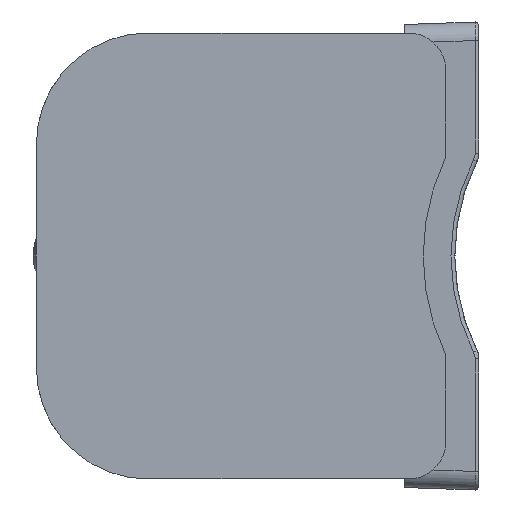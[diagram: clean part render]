
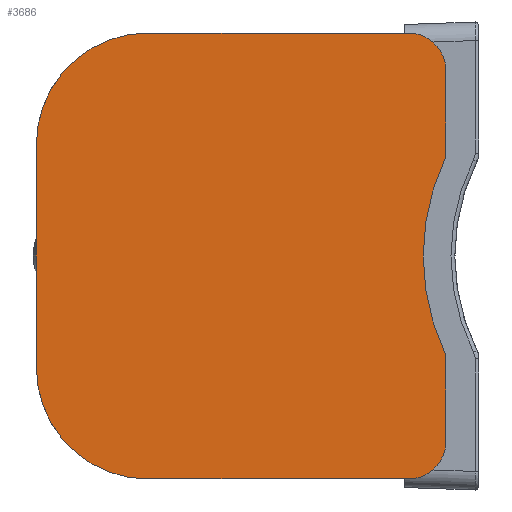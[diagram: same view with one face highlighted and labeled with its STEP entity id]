
A CAD part, left-side view. The second image highlights one B-rep face of the part: STEP entity #3686.
In plain terms, the highlighted planar face has unit normal (-1, 0, 0).
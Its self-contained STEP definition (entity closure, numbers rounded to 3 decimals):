
#191=PLANE('',#4046);
#363=CIRCLE('',#4045,1.01);
#364=CIRCLE('',#4047,3.);
#365=CIRCLE('',#4048,1.01);
#366=CIRCLE('',#4049,0.22);
#367=CIRCLE('',#4050,6.1);
#368=CIRCLE('',#4051,0.22);
#369=CIRCLE('',#4052,3.);
#849=ORIENTED_EDGE('',*,*,#1762,.F.);
#850=ORIENTED_EDGE('',*,*,#1763,.F.);
#851=ORIENTED_EDGE('',*,*,#1764,.F.);
#852=ORIENTED_EDGE('',*,*,#1765,.F.);
#853=ORIENTED_EDGE('',*,*,#1766,.F.);
#854=ORIENTED_EDGE('',*,*,#1767,.F.);
#855=ORIENTED_EDGE('',*,*,#1768,.F.);
#856=ORIENTED_EDGE('',*,*,#1769,.F.);
#857=ORIENTED_EDGE('',*,*,#1760,.F.);
#858=ORIENTED_EDGE('',*,*,#1770,.F.);
#859=ORIENTED_EDGE('',*,*,#1771,.F.);
#860=ORIENTED_EDGE('',*,*,#1772,.F.);
#1760=EDGE_CURVE('',#2242,#2243,#363,.T.);
#1762=EDGE_CURVE('',#2244,#2245,#364,.T.);
#1763=EDGE_CURVE('',#2246,#2244,#2559,.T.);
#1764=EDGE_CURVE('',#2247,#2246,#365,.T.);
#1765=EDGE_CURVE('',#2248,#2247,#2560,.T.);
#1766=EDGE_CURVE('',#2249,#2248,#366,.T.);
#1767=EDGE_CURVE('',#2250,#2249,#367,.T.);
#1768=EDGE_CURVE('',#2251,#2250,#368,.T.);
#1769=EDGE_CURVE('',#2243,#2251,#2561,.T.);
#1770=EDGE_CURVE('',#2252,#2242,#2562,.T.);
#1771=EDGE_CURVE('',#2253,#2252,#369,.T.);
#1772=EDGE_CURVE('',#2245,#2253,#2563,.T.);
#2242=VERTEX_POINT('',#5897);
#2243=VERTEX_POINT('',#5899);
#2244=VERTEX_POINT('',#5903);
#2245=VERTEX_POINT('',#5904);
#2246=VERTEX_POINT('',#5906);
#2247=VERTEX_POINT('',#5908);
#2248=VERTEX_POINT('',#5910);
#2249=VERTEX_POINT('',#5912);
#2250=VERTEX_POINT('',#5914);
#2251=VERTEX_POINT('',#5916);
#2252=VERTEX_POINT('',#5919);
#2253=VERTEX_POINT('',#5921);
#2559=LINE('',#5905,#2802);
#2560=LINE('',#5909,#2803);
#2561=LINE('',#5917,#2804);
#2562=LINE('',#5918,#2805);
#2563=LINE('',#5922,#2806);
#2802=VECTOR('',#4770,1000.);
#2803=VECTOR('',#4773,1000.);
#2804=VECTOR('',#4780,1000.);
#2805=VECTOR('',#4781,1000.);
#2806=VECTOR('',#4784,1000.);
#3041=EDGE_LOOP('',(#849,#850,#851,#852,#853,#854,#855,#856,#857,#858,#859,
#860));
#3321=FACE_BOUND('',#3041,.T.);
#3686=ADVANCED_FACE('',(#3321),#191,.F.);
#4045=AXIS2_PLACEMENT_3D('',#5898,#4763,#4764);
#4046=AXIS2_PLACEMENT_3D('',#5901,#4766,#4767);
#4047=AXIS2_PLACEMENT_3D('',#5902,#4768,#4769);
#4048=AXIS2_PLACEMENT_3D('',#5907,#4771,#4772);
#4049=AXIS2_PLACEMENT_3D('',#5911,#4774,#4775);
#4050=AXIS2_PLACEMENT_3D('',#5913,#4776,#4777);
#4051=AXIS2_PLACEMENT_3D('',#5915,#4778,#4779);
#4052=AXIS2_PLACEMENT_3D('',#5920,#4782,#4783);
#4763=DIRECTION('',(1.,0.,0.));
#4764=DIRECTION('',(0.,0.,-1.));
#4766=DIRECTION('',(1.,0.,0.));
#4767=DIRECTION('',(0.,0.,-1.));
#4768=DIRECTION('',(1.,0.,0.));
#4769=DIRECTION('',(0.,-0.707,0.707));
#4770=DIRECTION('',(0.,1.,0.));
#4771=DIRECTION('',(1.,0.,0.));
#4772=DIRECTION('',(0.,0.707,0.707));
#4773=DIRECTION('',(0.,0.,-1.));
#4774=DIRECTION('',(1.,0.,0.));
#4775=DIRECTION('',(0.,0.,-1.));
#4776=DIRECTION('',(-1.,0.,0.));
#4777=DIRECTION('',(0.,0.,-1.));
#4778=DIRECTION('',(1.,0.,0.));
#4779=DIRECTION('',(0.,0.,-1.));
#4780=DIRECTION('',(0.,0.,-1.));
#4781=DIRECTION('',(0.,-1.,0.));
#4782=DIRECTION('',(1.,0.,0.));
#4783=DIRECTION('',(0.,0.,-1.));
#4784=DIRECTION('',(0.,0.,1.));
#5897=CARTESIAN_POINT('',(-72.5,-0.1,6.));
#5898=CARTESIAN_POINT('',(-72.5,-0.1,4.99));
#5899=CARTESIAN_POINT('',(-72.5,-1.11,4.99));
#5901=CARTESIAN_POINT('',(-72.5,3.5,0.));
#5902=CARTESIAN_POINT('',(-72.5,6.91,-3.));
#5903=CARTESIAN_POINT('',(-72.5,6.91,-6.));
#5904=CARTESIAN_POINT('',(-72.5,9.91,-3.));
#5905=CARTESIAN_POINT('',(-72.5,-0.1,-6.));
#5906=CARTESIAN_POINT('',(-72.5,-0.1,-6.));
#5907=CARTESIAN_POINT('',(-72.5,-0.1,-4.99));
#5908=CARTESIAN_POINT('',(-72.5,-1.11,-4.99));
#5909=CARTESIAN_POINT('',(-72.5,-1.11,-2.71));
#5910=CARTESIAN_POINT('',(-72.5,-1.11,-2.71));
#5911=CARTESIAN_POINT('',(-72.5,-0.89,-2.71));
#5912=CARTESIAN_POINT('',(-72.5,-1.089,-2.616));
#5913=CARTESIAN_POINT('',(-72.5,-6.599,0.));
#5914=CARTESIAN_POINT('',(-72.5,-1.089,2.616));
#5915=CARTESIAN_POINT('',(-72.5,-0.89,2.71));
#5916=CARTESIAN_POINT('',(-72.5,-1.11,2.71));
#5917=CARTESIAN_POINT('',(-72.5,-1.11,4.99));
#5918=CARTESIAN_POINT('',(-72.5,6.91,6.));
#5919=CARTESIAN_POINT('',(-72.5,6.91,6.));
#5920=CARTESIAN_POINT('',(-72.5,6.91,3.));
#5921=CARTESIAN_POINT('',(-72.5,9.91,3.));
#5922=CARTESIAN_POINT('',(-72.5,9.91,-3.));
